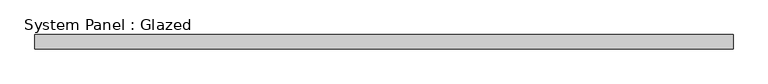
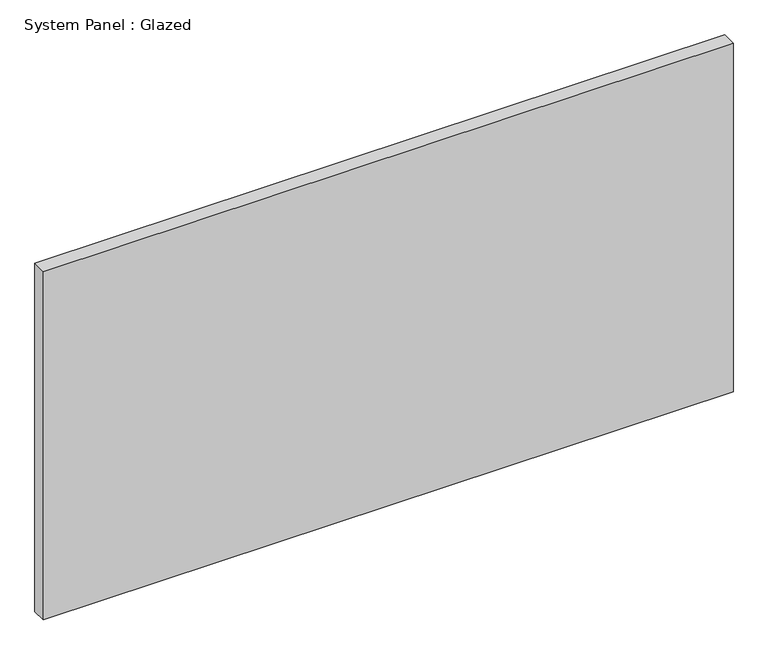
"""IFC4 building model written with IfcOpenShell, lengths in millimetres: plate geometry, System Panel : Glazed."""

from ifc_helpers import new_model, si_unit, origin, origin_with_axes, place, context, project, spatial, polyline, outline, extrude, source, transform, mapped, element, save


def system_panel_glazed_4ba1c1aa(model_context):
    return source(origin(), model_context, "Body", "SweptSolid", [
        extrude(outline(polyline([(609.6, -44.45), (-609.6, -44.45), (-609.6, -19.05), (609.6, -19.05), (609.6, -44.45)])), origin_with_axes(), (0.0, 0.0, 1.0), 650.875),
    ])


if __name__ == "__main__":
    model = new_model("IFC4")
    model_context = context("Model", 3, world=origin())
    ifc_project = project(units=[si_unit("LENGTHUNIT", "METRE", prefix="MILLI")], contexts=[model_context])
    site = spatial("IfcSite", under=ifc_project)
    building = spatial("IfcBuilding", under=site)
    placement = place(None, origin())
    system_panel_glazed_shape = system_panel_glazed_4ba1c1aa(model_context)
    element("IfcPlate", 1, ObjectType="System Panel : Glazed", at=placement, inside=building, context=model_context, shape_type="MappedRepresentation", body=[
        mapped(system_panel_glazed_shape, transform((0.0, 0.0, 0.0), x_axis=(1.0, 0.0, 0.0), y_axis=(0.0, 1.0, 0.0), z_axis=(0.0, 0.0, 1.0))),
    ])
    save(model, "model.ifc")
